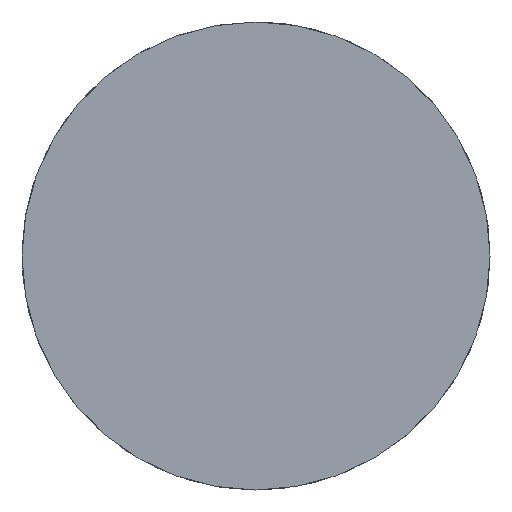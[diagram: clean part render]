
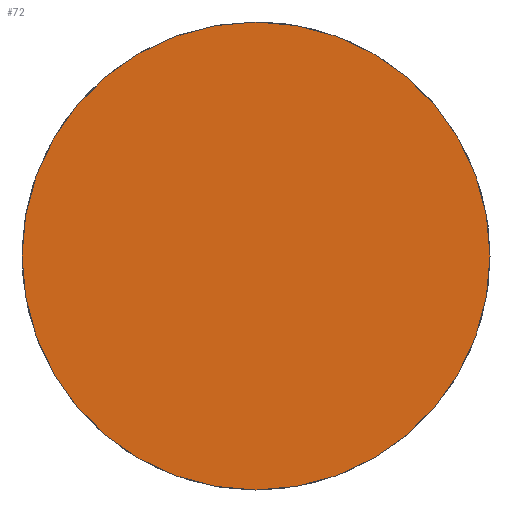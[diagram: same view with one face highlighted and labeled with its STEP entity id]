
A CAD part, left-side view. The second image highlights one B-rep face of the part: STEP entity #72.
In plain terms, the highlighted planar face has unit normal (-1, 0, 0).
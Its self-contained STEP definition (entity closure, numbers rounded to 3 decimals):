
#25=CARTESIAN_POINT('',(-691.681,-604.626,-19.626));
#26=VERTEX_POINT('',#25);
#33=CARTESIAN_POINT('',(-691.681,-521.626,-19.626));
#34=VERTEX_POINT('',#33);
#35=CARTESIAN_POINT('',(-691.681,-563.126,-19.626));
#36=DIRECTION('',(-1.0,0.0,0.0));
#37=DIRECTION('',(0.0,-1.0,0.0));
#38=AXIS2_PLACEMENT_3D('',#35,#36,#37);
#39=CIRCLE('',#38,41.5);
#40=EDGE_CURVE('',#34,#26,#39,.T.);
#42=CARTESIAN_POINT('',(-691.681,-563.126,-19.626));
#43=DIRECTION('',(-1.0,0.0,0.0));
#44=DIRECTION('',(0.0,-1.0,0.0));
#45=AXIS2_PLACEMENT_3D('',#42,#43,#44);
#46=CIRCLE('',#45,41.5);
#47=EDGE_CURVE('',#26,#34,#46,.T.);
#63=CARTESIAN_POINT('',(-691.681,-513.326,-69.426));
#64=DIRECTION('',(-1.0,0.0,0.0));
#65=DIRECTION('',(0.0,-1.0,0.0));
#66=AXIS2_PLACEMENT_3D('',#63,#64,#65);
#67=PLANE('',#66);
#68=ORIENTED_EDGE('',*,*,#47,.T.);
#69=ORIENTED_EDGE('',*,*,#40,.T.);
#70=EDGE_LOOP('',(#68,#69));
#71=FACE_OUTER_BOUND('',#70,.T.);
#72=ADVANCED_FACE('',(#71),#67,.T.);
